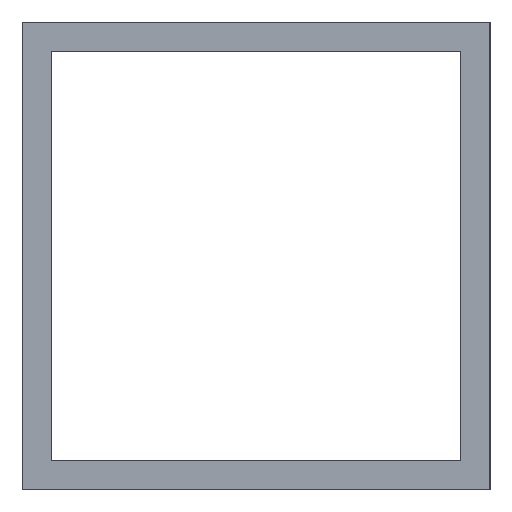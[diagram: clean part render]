
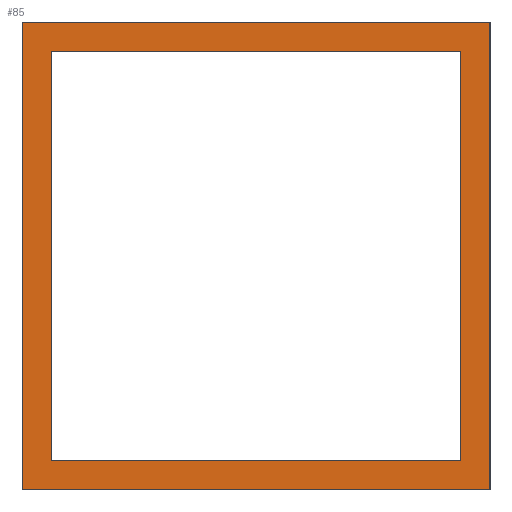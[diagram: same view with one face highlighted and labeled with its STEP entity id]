
A CAD part, left-side view. The second image highlights one B-rep face of the part: STEP entity #85.
In plain terms, the highlighted planar face has unit normal (-1, 0, 0).
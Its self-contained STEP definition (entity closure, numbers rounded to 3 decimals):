
#85=ADVANCED_FACE('',(#147,#115),#335,.T.);
#115=FACE_OUTER_BOUND('',#160,.F.);
#147=FACE_BOUND('',#159,.F.);
#159=EDGE_LOOP('',(#211,#212,#213,#214));
#160=EDGE_LOOP('',(#215,#216,#217,#218));
#211=ORIENTED_EDGE('',*,*,#652,.T.);
#212=ORIENTED_EDGE('',*,*,#654,.T.);
#213=ORIENTED_EDGE('',*,*,#640,.T.);
#214=ORIENTED_EDGE('',*,*,#650,.T.);
#215=ORIENTED_EDGE('',*,*,#643,.F.);
#216=ORIENTED_EDGE('',*,*,#659,.F.);
#217=ORIENTED_EDGE('',*,*,#660,.F.);
#218=ORIENTED_EDGE('',*,*,#661,.F.);
#335=PLANE('',#790);
#548=LINE('',#1040,#590);
#551=LINE('',#1043,#593);
#554=LINE('',#1050,#596);
#556=LINE('',#1052,#598);
#558=LINE('',#1054,#600);
#563=LINE('',#1059,#605);
#564=LINE('',#1060,#606);
#565=LINE('',#1061,#607);
#590=VECTOR('',#855,22.225);
#593=VECTOR('',#858,25.4);
#596=VECTOR('',#869,22.225);
#598=VECTOR('',#871,22.225);
#600=VECTOR('',#873,22.225);
#605=VECTOR('',#878,25.4);
#606=VECTOR('',#879,25.4);
#607=VECTOR('',#880,25.4);
#640=EDGE_CURVE('',#749,#748,#548,.T.);
#643=EDGE_CURVE('',#743,#742,#551,.T.);
#650=EDGE_CURVE('',#748,#737,#554,.T.);
#652=EDGE_CURVE('',#737,#735,#556,.T.);
#654=EDGE_CURVE('',#735,#749,#558,.T.);
#659=EDGE_CURVE('',#731,#743,#563,.T.);
#660=EDGE_CURVE('',#730,#731,#564,.T.);
#661=EDGE_CURVE('',#742,#730,#565,.T.);
#730=VERTEX_POINT('',#1004);
#731=VERTEX_POINT('',#1005);
#735=VERTEX_POINT('',#1009);
#737=VERTEX_POINT('',#1011);
#742=VERTEX_POINT('',#1016);
#743=VERTEX_POINT('',#1017);
#748=VERTEX_POINT('',#1022);
#749=VERTEX_POINT('',#1023);
#790=AXIS2_PLACEMENT_3D('',#1076,#897,#898);
#855=DIRECTION('',(0.,1.,0.));
#858=DIRECTION('',(0.,1.,0.));
#869=DIRECTION('',(0.,0.,-1.));
#871=DIRECTION('',(0.,-1.,0.));
#873=DIRECTION('',(0.,0.,1.));
#878=DIRECTION('',(0.,0.,1.));
#879=DIRECTION('',(0.,-1.,0.));
#880=DIRECTION('',(0.,0.,-1.));
#897=DIRECTION('',(-1.,0.,0.));
#898=DIRECTION('',(0.,0.,1.));
#1004=CARTESIAN_POINT('',(1271.786,-2794.341,6160.345));
#1005=CARTESIAN_POINT('',(1271.786,-2819.741,6160.345));
#1009=CARTESIAN_POINT('',(1271.786,-2818.153,6161.933));
#1011=CARTESIAN_POINT('',(1271.786,-2795.928,6161.933));
#1016=CARTESIAN_POINT('',(1271.786,-2794.341,6185.745));
#1017=CARTESIAN_POINT('',(1271.786,-2819.741,6185.745));
#1022=CARTESIAN_POINT('',(1271.786,-2795.928,6184.158));
#1023=CARTESIAN_POINT('',(1271.786,-2818.153,6184.158));
#1040=CARTESIAN_POINT('',(1271.786,-2818.153,6184.158));
#1043=CARTESIAN_POINT('',(1271.786,-2819.741,6185.745));
#1050=CARTESIAN_POINT('',(1271.786,-2795.928,6184.158));
#1052=CARTESIAN_POINT('',(1271.786,-2795.928,6161.933));
#1054=CARTESIAN_POINT('',(1271.786,-2818.153,6161.933));
#1059=CARTESIAN_POINT('',(1271.786,-2819.741,6160.345));
#1060=CARTESIAN_POINT('',(1271.786,-2794.341,6160.345));
#1061=CARTESIAN_POINT('',(1271.786,-2794.341,6185.745));
#1076=CARTESIAN_POINT('',(1271.786,-2819.995,6160.091));
